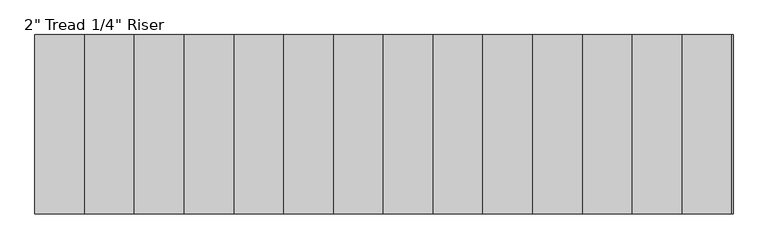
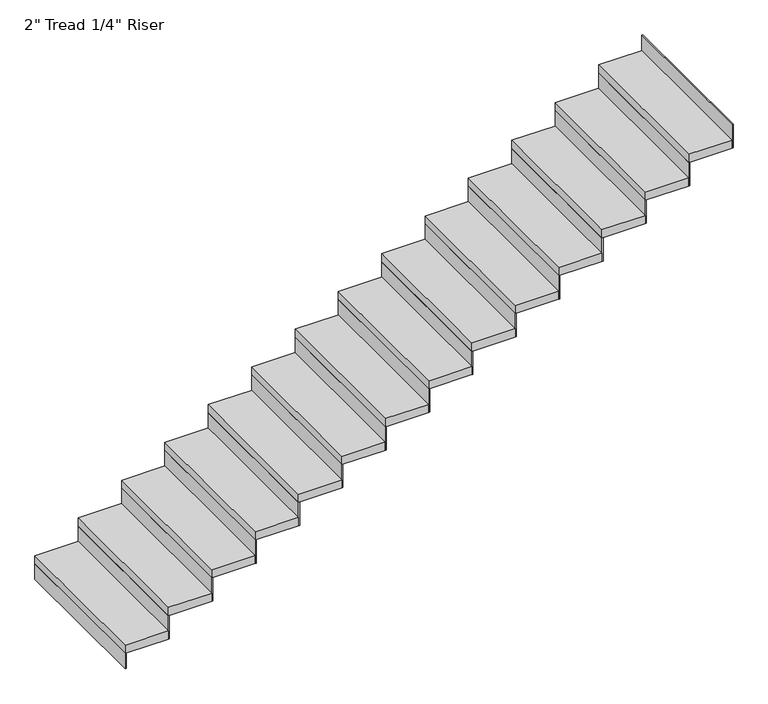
"""IFC4 building model written with IfcOpenShell, lengths in millimetres: stair flight geometry."""

from ifc_helpers import new_model, si_unit, frame, origin, origin_with_axes, place, context, project, spatial, polyline, outline, extrude, source, transform, mapped, element, save


def stair_flight_39490ed9(model_context):
    return source(origin(), model_context, "Body", "SweptSolid", [
        extrude(outline(polyline([(84304.1548368, -2400.7855758), (84297.8048368, -2400.7855758), (84297.8048368, -1486.3855758), (84304.1548368, -1486.3855758), (84304.1548368, -2400.7855758)])), origin_with_axes(), (0.0, 0.0, 1.0), 94.3428571),
        extrude(outline(polyline([(84551.8048368, -1486.3855758), (84551.8048368, -2400.7855758), (84297.8048368, -2400.7855758), (84297.8048368, -1486.3855758), (84551.8048368, -1486.3855758)])), frame((0.0, 0.0, 94.3428571), z_axis=(0.0, 0.0, 1.0), x_axis=(1.0, 0.0, 0.0)), (0.0, 0.0, 1.0), 50.8),
        extrude(outline(polyline([(84558.1548368, -2400.7855758), (84551.8048368, -2400.7855758), (84551.8048368, -1486.3855758), (84558.1548368, -1486.3855758), (84558.1548368, -2400.7855758)])), frame((0.0, 0.0, 94.3428571), z_axis=(0.0, 0.0, 1.0), x_axis=(1.0, 0.0, 0.0)), (0.0, 0.0, 1.0), 145.1428571),
        extrude(outline(polyline([(84805.8048368, -1486.3855758), (84805.8048368, -2400.7855758), (84551.8048368, -2400.7855758), (84551.8048368, -1486.3855758), (84805.8048368, -1486.3855758)])), frame((0.0, 0.0, 239.4857143), z_axis=(0.0, 0.0, 1.0), x_axis=(1.0, 0.0, 0.0)), (0.0, 0.0, 1.0), 50.8),
        extrude(outline(polyline([(84812.1548368, -2400.7855758), (84805.8048368, -2400.7855758), (84805.8048368, -1486.3855758), (84812.1548368, -1486.3855758), (84812.1548368, -2400.7855758)])), frame((0.0, 0.0, 239.4857143), z_axis=(0.0, 0.0, 1.0), x_axis=(1.0, 0.0, 0.0)), (0.0, 0.0, 1.0), 145.1428571),
        extrude(outline(polyline([(85059.8048368, -1486.3855758), (85059.8048368, -2400.7855758), (84805.8048368, -2400.7855758), (84805.8048368, -1486.3855758), (85059.8048368, -1486.3855758)])), frame((0.0, 0.0, 384.6285714), z_axis=(0.0, 0.0, 1.0), x_axis=(1.0, 0.0, 0.0)), (0.0, 0.0, 1.0), 50.8),
        extrude(outline(polyline([(85066.1548368, -2400.7855758), (85059.8048368, -2400.7855758), (85059.8048368, -1486.3855758), (85066.1548368, -1486.3855758), (85066.1548368, -2400.7855758)])), frame((0.0, 0.0, 384.6285714), z_axis=(0.0, 0.0, 1.0), x_axis=(1.0, 0.0, 0.0)), (0.0, 0.0, 1.0), 145.1428571),
        extrude(outline(polyline([(85313.8048368, -1486.3855758), (85313.8048368, -2400.7855758), (85059.8048368, -2400.7855758), (85059.8048368, -1486.3855758), (85313.8048368, -1486.3855758)])), frame((0.0, 0.0, 529.7714286), z_axis=(0.0, 0.0, 1.0), x_axis=(1.0, 0.0, 0.0)), (0.0, 0.0, 1.0), 50.8),
        extrude(outline(polyline([(85320.1548368, -2400.7855758), (85313.8048368, -2400.7855758), (85313.8048368, -1486.3855758), (85320.1548368, -1486.3855758), (85320.1548368, -2400.7855758)])), frame((0.0, 0.0, 529.7714286), z_axis=(0.0, 0.0, 1.0), x_axis=(1.0, 0.0, 0.0)), (0.0, 0.0, 1.0), 145.1428571),
        extrude(outline(polyline([(85567.8048368, -1486.3855758), (85567.8048368, -2400.7855758), (85313.8048368, -2400.7855758), (85313.8048368, -1486.3855758), (85567.8048368, -1486.3855758)])), frame((0.0, 0.0, 674.9142857), z_axis=(0.0, 0.0, 1.0), x_axis=(1.0, 0.0, 0.0)), (0.0, 0.0, 1.0), 50.8),
        extrude(outline(polyline([(85574.1548368, -2400.7855758), (85567.8048368, -2400.7855758), (85567.8048368, -1486.3855758), (85574.1548368, -1486.3855758), (85574.1548368, -2400.7855758)])), frame((0.0, 0.0, 674.9142857), z_axis=(0.0, 0.0, 1.0), x_axis=(1.0, 0.0, 0.0)), (0.0, 0.0, 1.0), 145.1428571),
        extrude(outline(polyline([(85821.8048368, -1486.3855758), (85821.8048368, -2400.7855758), (85567.8048368, -2400.7855758), (85567.8048368, -1486.3855758), (85821.8048368, -1486.3855758)])), frame((0.0, 0.0, 820.0571429), z_axis=(0.0, 0.0, 1.0), x_axis=(1.0, 0.0, 0.0)), (0.0, 0.0, 1.0), 50.8),
        extrude(outline(polyline([(85828.1548368, -2400.7855758), (85821.8048368, -2400.7855758), (85821.8048368, -1486.3855758), (85828.1548368, -1486.3855758), (85828.1548368, -2400.7855758)])), frame((0.0, 0.0, 820.0571429), z_axis=(0.0, 0.0, 1.0), x_axis=(1.0, 0.0, 0.0)), (0.0, 0.0, 1.0), 145.1428571),
        extrude(outline(polyline([(86075.8048368, -1486.3855758), (86075.8048368, -2400.7855758), (85821.8048368, -2400.7855758), (85821.8048368, -1486.3855758), (86075.8048368, -1486.3855758)])), frame((0.0, 0.0, 965.2), z_axis=(0.0, 0.0, 1.0), x_axis=(1.0, 0.0, 0.0)), (0.0, 0.0, 1.0), 50.8),
        extrude(outline(polyline([(86082.1548368, -2400.7855758), (86075.8048368, -2400.7855758), (86075.8048368, -1486.3855758), (86082.1548368, -1486.3855758), (86082.1548368, -2400.7855758)])), frame((0.0, 0.0, 965.2), z_axis=(0.0, 0.0, 1.0), x_axis=(1.0, 0.0, 0.0)), (0.0, 0.0, 1.0), 145.1428571),
        extrude(outline(polyline([(86329.8048368, -1486.3855758), (86329.8048368, -2400.7855758), (86075.8048368, -2400.7855758), (86075.8048368, -1486.3855758), (86329.8048368, -1486.3855758)])), frame((0.0, 0.0, 1110.3428571), z_axis=(0.0, 0.0, 1.0), x_axis=(1.0, 0.0, 0.0)), (0.0, 0.0, 1.0), 50.8),
        extrude(outline(polyline([(86336.1548368, -2400.7855758), (86329.8048368, -2400.7855758), (86329.8048368, -1486.3855758), (86336.1548368, -1486.3855758), (86336.1548368, -2400.7855758)])), frame((0.0, 0.0, 1110.3428571), z_axis=(0.0, 0.0, 1.0), x_axis=(1.0, 0.0, 0.0)), (0.0, 0.0, 1.0), 145.1428571),
        extrude(outline(polyline([(86583.8048368, -1486.3855758), (86583.8048368, -2400.7855758), (86329.8048368, -2400.7855758), (86329.8048368, -1486.3855758), (86583.8048368, -1486.3855758)])), frame((0.0, 0.0, 1255.4857143), z_axis=(0.0, 0.0, 1.0), x_axis=(1.0, 0.0, 0.0)), (0.0, 0.0, 1.0), 50.8),
        extrude(outline(polyline([(86590.1548368, -2400.7855758), (86583.8048368, -2400.7855758), (86583.8048368, -1486.3855758), (86590.1548368, -1486.3855758), (86590.1548368, -2400.7855758)])), frame((0.0, 0.0, 1255.4857143), z_axis=(0.0, 0.0, 1.0), x_axis=(1.0, 0.0, 0.0)), (0.0, 0.0, 1.0), 145.1428571),
        extrude(outline(polyline([(86837.8048368, -1486.3855758), (86837.8048368, -2400.7855758), (86583.8048368, -2400.7855758), (86583.8048368, -1486.3855758), (86837.8048368, -1486.3855758)])), frame((0.0, 0.0, 1400.6285714), z_axis=(0.0, 0.0, 1.0), x_axis=(1.0, 0.0, 0.0)), (0.0, 0.0, 1.0), 50.8),
        extrude(outline(polyline([(86844.1548368, -2400.7855758), (86837.8048368, -2400.7855758), (86837.8048368, -1486.3855758), (86844.1548368, -1486.3855758), (86844.1548368, -2400.7855758)])), frame((0.0, 0.0, 1400.6285714), z_axis=(0.0, 0.0, 1.0), x_axis=(1.0, 0.0, 0.0)), (0.0, 0.0, 1.0), 145.1428571),
        extrude(outline(polyline([(87091.8048368, -1486.3855758), (87091.8048368, -2400.7855758), (86837.8048368, -2400.7855758), (86837.8048368, -1486.3855758), (87091.8048368, -1486.3855758)])), frame((0.0, 0.0, 1545.7714286), z_axis=(0.0, 0.0, 1.0), x_axis=(1.0, 0.0, 0.0)), (0.0, 0.0, 1.0), 50.8),
        extrude(outline(polyline([(87098.1548368, -2400.7855758), (87091.8048368, -2400.7855758), (87091.8048368, -1486.3855758), (87098.1548368, -1486.3855758), (87098.1548368, -2400.7855758)])), frame((0.0, 0.0, 1545.7714286), z_axis=(0.0, 0.0, 1.0), x_axis=(1.0, 0.0, 0.0)), (0.0, 0.0, 1.0), 145.1428571),
        extrude(outline(polyline([(87345.8048368, -1486.3855758), (87345.8048368, -2400.7855758), (87091.8048368, -2400.7855758), (87091.8048368, -1486.3855758), (87345.8048368, -1486.3855758)])), frame((0.0, 0.0, 1690.9142857), z_axis=(0.0, 0.0, 1.0), x_axis=(1.0, 0.0, 0.0)), (0.0, 0.0, 1.0), 50.8),
        extrude(outline(polyline([(87352.1548368, -2400.7855758), (87345.8048368, -2400.7855758), (87345.8048368, -1486.3855758), (87352.1548368, -1486.3855758), (87352.1548368, -2400.7855758)])), frame((0.0, 0.0, 1690.9142857), z_axis=(0.0, 0.0, 1.0), x_axis=(1.0, 0.0, 0.0)), (0.0, 0.0, 1.0), 145.1428571),
        extrude(outline(polyline([(87599.8048368, -1486.3855758), (87599.8048368, -2400.7855758), (87345.8048368, -2400.7855758), (87345.8048368, -1486.3855758), (87599.8048368, -1486.3855758)])), frame((0.0, 0.0, 1836.0571429), z_axis=(0.0, 0.0, 1.0), x_axis=(1.0, 0.0, 0.0)), (0.0, 0.0, 1.0), 50.8),
        extrude(outline(polyline([(87606.1548368, -2400.7855758), (87599.8048368, -2400.7855758), (87599.8048368, -1486.3855758), (87606.1548368, -1486.3855758), (87606.1548368, -2400.7855758)])), frame((0.0, 0.0, 1836.0571429), z_axis=(0.0, 0.0, 1.0), x_axis=(1.0, 0.0, 0.0)), (0.0, 0.0, 1.0), 145.1428571),
        extrude(outline(polyline([(87860.1548368, -2400.7855758), (87853.8048368, -2400.7855758), (87853.8048368, -1486.3855758), (87860.1548368, -1486.3855758), (87860.1548368, -2400.7855758)])), frame((0.0, 0.0, 1981.2), z_axis=(0.0, 0.0, 1.0), x_axis=(1.0, 0.0, 0.0)), (0.0, 0.0, 1.0), 145.1428571),
        extrude(outline(polyline([(87853.8048368, -1486.3855758), (87853.8048368, -2400.7855758), (87599.8048368, -2400.7855758), (87599.8048368, -1486.3855758), (87853.8048368, -1486.3855758)])), frame((0.0, 0.0, 1981.2), z_axis=(0.0, 0.0, 1.0), x_axis=(1.0, 0.0, 0.0)), (0.0, 0.0, 1.0), 50.8),
    ])


if __name__ == "__main__":
    model = new_model("IFC4")
    model_context = context("Model", 3, world=origin())
    ifc_project = project(units=[si_unit("LENGTHUNIT", "METRE", prefix="MILLI")], contexts=[model_context])
    site = spatial("IfcSite", under=ifc_project)
    building = spatial("IfcBuilding", under=site)
    placement = place(None, origin())
    stair_flight_shape = stair_flight_39490ed9(model_context)
    element("IfcStairFlight", 1, ObjectType="2\" Tread 1/4\" Riser", at=placement, inside=building, context=model_context, shape_type="MappedRepresentation", body=[
        mapped(stair_flight_shape, transform((0.0, 0.0, 0.0), x_axis=(1.0, 0.0, 0.0), y_axis=(0.0, 1.0, 0.0), z_axis=(0.0, 0.0, 1.0))),
    ])
    save(model, "model.ifc")
